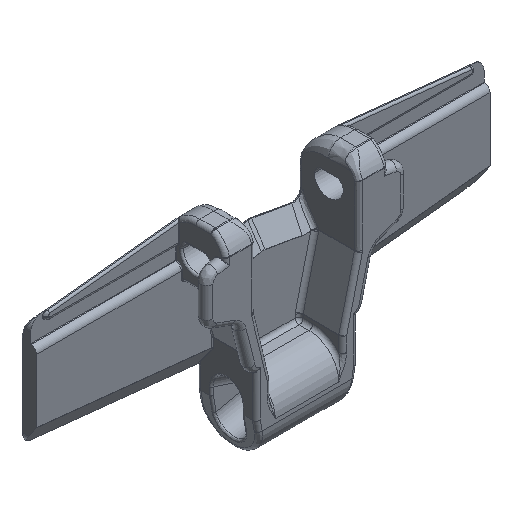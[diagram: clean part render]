
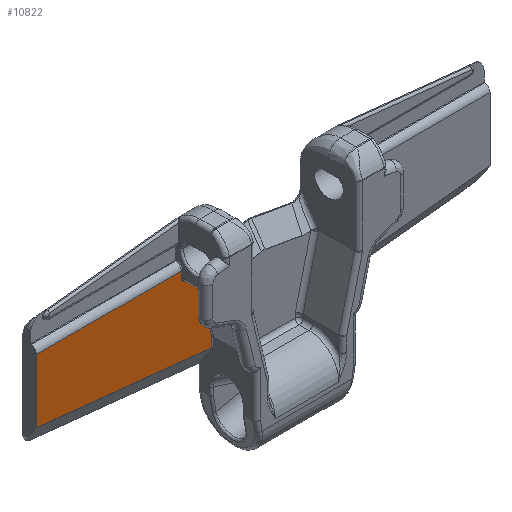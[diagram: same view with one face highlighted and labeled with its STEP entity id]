
A CAD part, isometric view. The second image highlights one B-rep face of the part: STEP entity #10822.
In plain terms, the highlighted planar face has unit normal (0, -1, 0).
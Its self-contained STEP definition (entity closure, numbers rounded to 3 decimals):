
#2565=DIRECTION('',(0.,0.,1.));
#2566=VECTOR('',#2565,1.49);
#2567=CARTESIAN_POINT('',(-20.7,3.5,13.05));
#2568=LINE('',#2567,#2566);
#2569=CARTESIAN_POINT('',(-19.5,3.5,13.05));
#2570=DIRECTION('',(0.,1.,0.));
#2571=DIRECTION('',(0.,0.,-1.));
#2572=AXIS2_PLACEMENT_3D('',#2569,#2570,#2571);
#2574=DIRECTION('',(-1.,0.,0.));
#2575=VECTOR('',#2574,4.1);
#2576=CARTESIAN_POINT('',(-15.4,3.5,11.85));
#2577=LINE('',#2576,#2575);
#2578=DIRECTION('',(0.,0.,1.));
#2579=VECTOR('',#2578,5.742);
#2580=CARTESIAN_POINT('',(-15.4,3.5,6.108));
#2581=LINE('',#2580,#2579);
#2582=CARTESIAN_POINT('',(-14.7,3.5,6.108));
#2583=DIRECTION('',(0.,1.,0.));
#2584=DIRECTION('',(-0.97,0.,-0.242));
#2585=AXIS2_PLACEMENT_3D('',#2582,#2583,#2584);
#2587=DIRECTION('',(-0.242,0.,0.97));
#2588=VECTOR('',#2587,10.004);
#2589=CARTESIAN_POINT('',(-12.959,3.5,-3.769));
#2590=LINE('',#2589,#2588);
#2591=CARTESIAN_POINT('',(-13.25,3.5,-3.841));
#2592=DIRECTION('',(0.,-1.,0.));
#2593=DIRECTION('',(1.,0.,0.));
#2594=AXIS2_PLACEMENT_3D('',#2591,#2592,#2593);
#2596=DIRECTION('',(0.,0.,1.));
#2597=VECTOR('',#2596,2.237);
#2598=CARTESIAN_POINT('',(-12.95,3.5,-6.079));
#2599=LINE('',#2598,#2597);
#2600=DIRECTION('',(-0.995,0.,0.105));
#2601=VECTOR('',#2600,44.443);
#2602=CARTESIAN_POINT('',(-12.95,3.5,-6.079));
#2603=LINE('',#2602,#2601);
#2604=DIRECTION('',(0.,0.,-1.));
#2605=VECTOR('',#2604,15.973);
#2606=CARTESIAN_POINT('',(-57.15,3.5,14.54));
#2607=LINE('',#2606,#2605);
#2608=DIRECTION('',(1.,0.,0.));
#2609=VECTOR('',#2608,36.45);
#2610=CARTESIAN_POINT('',(-57.15,3.5,14.54));
#2611=LINE('',#2610,#2609);
#2720=CARTESIAN_POINT('',(-57.15,3.5,-1.433));
#7000=CARTESIAN_POINT('',(-57.15,3.5,14.54));
#7001=VERTEX_POINT('',#7000);
#7011=CARTESIAN_POINT('',(-20.7,3.5,14.54));
#7013=VERTEX_POINT('',#7011);
#7019=CARTESIAN_POINT('',(-20.7,3.5,13.05));
#7020=VERTEX_POINT('',#7019);
#7023=CARTESIAN_POINT('',(-19.5,3.5,11.85));
#7024=VERTEX_POINT('',#7023);
#7029=CARTESIAN_POINT('',(-15.4,3.5,11.85));
#7030=VERTEX_POINT('',#7029);
#7053=VERTEX_POINT('',#2720);
#7057=CARTESIAN_POINT('',(-12.95,3.5,-6.079));
#7058=VERTEX_POINT('',#7057);
#7096=CARTESIAN_POINT('',(-12.95,3.5,-3.841));
#7097=VERTEX_POINT('',#7096);
#7098=CARTESIAN_POINT('',(-12.959,3.5,-3.769));
#7099=VERTEX_POINT('',#7098);
#7100=CARTESIAN_POINT('',(-15.379,3.5,5.938));
#7101=VERTEX_POINT('',#7100);
#7102=CARTESIAN_POINT('',(-15.4,3.5,6.108));
#7103=VERTEX_POINT('',#7102);
#10793=CARTESIAN_POINT('',(0.,3.5,0.));
#10794=DIRECTION('',(0.,1.,0.));
#10795=DIRECTION('',(1.,0.,0.));
#10796=AXIS2_PLACEMENT_3D('',#10793,#10794,#10795);
#10797=PLANE('',#10796);
#10799=ORIENTED_EDGE('',*,*,#10798,.F.);
#10801=ORIENTED_EDGE('',*,*,#10800,.F.);
#10803=ORIENTED_EDGE('',*,*,#10802,.F.);
#10805=ORIENTED_EDGE('',*,*,#10804,.F.);
#10807=ORIENTED_EDGE('',*,*,#10806,.F.);
#10809=ORIENTED_EDGE('',*,*,#10808,.F.);
#10811=ORIENTED_EDGE('',*,*,#10810,.F.);
#10813=ORIENTED_EDGE('',*,*,#10812,.F.);
#10815=ORIENTED_EDGE('',*,*,#10814,.T.);
#10817=ORIENTED_EDGE('',*,*,#10816,.F.);
#10819=ORIENTED_EDGE('',*,*,#10818,.T.);
#10820=EDGE_LOOP('',(#10799,#10801,#10803,#10805,#10807,#10809,#10811,#10813,
#10815,#10817,#10819));
#10821=FACE_OUTER_BOUND('',#10820,.F.);
#2573=CIRCLE('',#2572,1.2);
#2586=CIRCLE('',#2585,0.7);
#2595=CIRCLE('',#2594,0.3);
#10798=EDGE_CURVE('',#7020,#7013,#2568,.T.);
#10800=EDGE_CURVE('',#7024,#7020,#2573,.T.);
#10802=EDGE_CURVE('',#7030,#7024,#2577,.T.);
#10804=EDGE_CURVE('',#7103,#7030,#2581,.T.);
#10806=EDGE_CURVE('',#7101,#7103,#2586,.T.);
#10808=EDGE_CURVE('',#7099,#7101,#2590,.T.);
#10810=EDGE_CURVE('',#7097,#7099,#2595,.T.);
#10812=EDGE_CURVE('',#7058,#7097,#2599,.T.);
#10814=EDGE_CURVE('',#7058,#7053,#2603,.T.);
#10816=EDGE_CURVE('',#7001,#7053,#2607,.T.);
#10818=EDGE_CURVE('',#7001,#7013,#2611,.T.);
#10822=ADVANCED_FACE('',(#10821),#10797,.F.);
